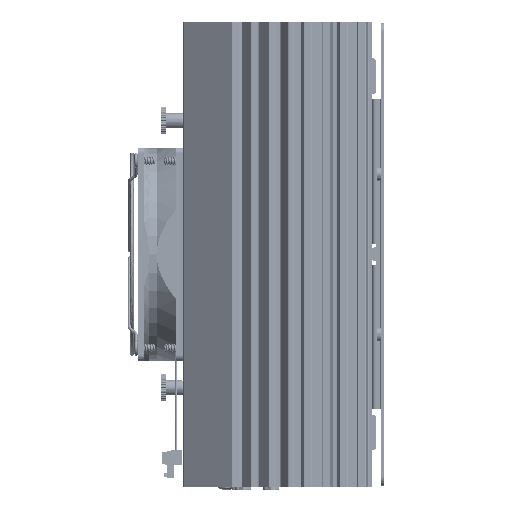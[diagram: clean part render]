
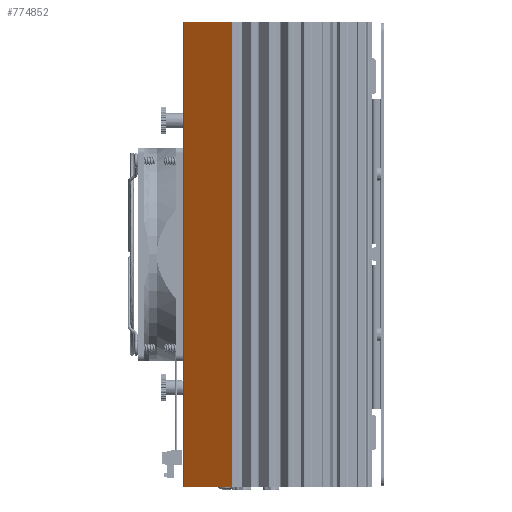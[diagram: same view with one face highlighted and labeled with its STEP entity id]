
A CAD part, left-side view. The second image highlights one B-rep face of the part: STEP entity #774852.
In plain terms, the highlighted planar face has unit normal (-0.819, 0.574, 0).
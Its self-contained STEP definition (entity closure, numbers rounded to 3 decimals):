
#3650 = LINE ( 'NONE', #388648, #699996 ) ;
#96397 = DIRECTION ( 'NONE',  ( 0.819, -0.574, 0. ) ) ;
#148949 = ORIENTED_EDGE ( 'NONE', *, *, #152887, .T. ) ;
#152076 = DIRECTION ( 'NONE',  ( -0.574, -0.819, 0. ) ) ;
#152887 = EDGE_CURVE ( 'NONE', #351573, #793578, #765325, .T. ) ;
#172488 = VERTEX_POINT ( 'NONE', #827434 ) ;
#247186 = DIRECTION ( 'NONE',  ( 0., 0., 1. ) ) ;
#247375 = ORIENTED_EDGE ( 'NONE', *, *, #502499, .T. ) ;
#257819 = VECTOR ( 'NONE', #369857, 1000. ) ;
#264106 = CARTESIAN_POINT ( 'NONE',  ( -113.398, -7.532, -130.5 ) ) ;
#305465 = DIRECTION ( 'NONE',  ( 0.574, 0.819, 0. ) ) ;
#351573 = VERTEX_POINT ( 'NONE', #505076 ) ;
#360162 = DIRECTION ( 'NONE',  ( 0., 0., -1. ) ) ;
#366756 = ORIENTED_EDGE ( 'NONE', *, *, #760305, .F. ) ;
#369857 = DIRECTION ( 'NONE',  ( -0.574, -0.819, 0. ) ) ;
#374327 = ORIENTED_EDGE ( 'NONE', *, *, #431876, .T. ) ;
#388648 = CARTESIAN_POINT ( 'NONE',  ( -113.398, -7.532, 130.5 ) ) ;
#416557 = CARTESIAN_POINT ( 'NONE',  ( -94.42, 19.571, 130.5 ) ) ;
#426480 = CARTESIAN_POINT ( 'NONE',  ( -94.42, 19.571, 130.5 ) ) ;
#431876 = EDGE_CURVE ( 'NONE', #793578, #172488, #3650, .T. ) ;
#435450 = CARTESIAN_POINT ( 'NONE',  ( -94.26, 19.8, 130.5 ) ) ;
#486557 = VERTEX_POINT ( 'NONE', #426480 ) ;
#500469 = PLANE ( 'NONE',  #600738 ) ;
#502499 = EDGE_CURVE ( 'NONE', #486557, #351573, #868291, .T. ) ;
#505076 = CARTESIAN_POINT ( 'NONE',  ( -94.42, 19.571, -130.5 ) ) ;
#564651 = CARTESIAN_POINT ( 'NONE',  ( -94.26, 19.8, 130.5 ) ) ;
#600738 = AXIS2_PLACEMENT_3D ( 'NONE', #435450, #96397, #305465 ) ;
#623728 = CARTESIAN_POINT ( 'NONE',  ( -94.26, 19.8, -130.5 ) ) ;
#628416 = VECTOR ( 'NONE', #152076, 1000. ) ;
#658880 = LINE ( 'NONE', #564651, #257819 ) ;
#699996 = VECTOR ( 'NONE', #247186, 1000. ) ;
#745626 = FACE_OUTER_BOUND ( 'NONE', #820970, .T. ) ;
#760305 = EDGE_CURVE ( 'NONE', #486557, #172488, #658880, .T. ) ;
#765325 = LINE ( 'NONE', #623728, #628416 ) ;
#774852 = ADVANCED_FACE ( 'NONE', ( #745626 ), #500469, .F. ) ;
#793578 = VERTEX_POINT ( 'NONE', #264106 ) ;
#815144 = VECTOR ( 'NONE', #360162, 1000. ) ;
#820970 = EDGE_LOOP ( 'NONE', ( #148949, #374327, #366756, #247375 ) ) ;
#827434 = CARTESIAN_POINT ( 'NONE',  ( -113.398, -7.532, 130.5 ) ) ;
#868291 = LINE ( 'NONE', #416557, #815144 ) ;
